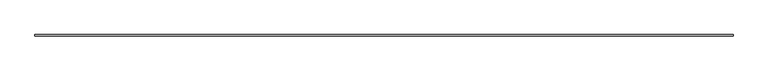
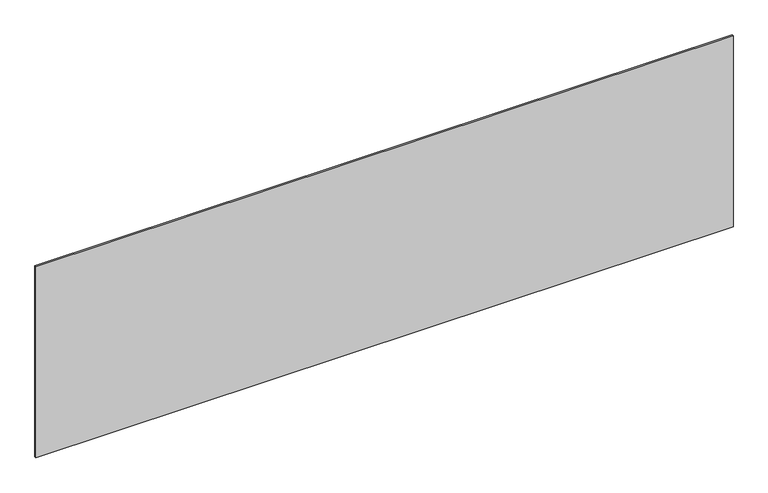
"""IFC4 building model written with IfcOpenShell, lengths in millimetres: plate geometry, システム パネル : 標準."""

from ifc_helpers import new_model, si_unit, origin, origin_with_axes, place, context, project, spatial, polyline, outline, extrude, source, transform, mapped, element, save


def plate_5fce4ca5(model_context):
    return source(origin(), model_context, "Body", "SweptSolid", [
        extrude(outline(polyline([(2281.6666667, -5.0), (-2281.6666667, -5.0), (-2281.6666667, 5.0), (2281.6666667, 5.0), (2281.6666667, -5.0)])), origin_with_axes(), (0.0, 0.0, 1.0), 1322.2777309),
    ])


if __name__ == "__main__":
    model = new_model("IFC4")
    model_context = context("Model", 3, world=origin())
    ifc_project = project(units=[si_unit("LENGTHUNIT", "METRE", prefix="MILLI")], contexts=[model_context])
    site = spatial("IfcSite", under=ifc_project)
    building = spatial("IfcBuilding", under=site)
    placement = place(None, origin())
    plate_shape = plate_5fce4ca5(model_context)
    element("IfcPlate", 1, ObjectType="システム パネル : 標準", at=placement, inside=building, context=model_context, shape_type="MappedRepresentation", body=[
        mapped(plate_shape, transform((0.0, 0.0, 0.0), x_axis=(1.0, 0.0, 0.0), y_axis=(0.0, 1.0, 0.0), z_axis=(0.0, 0.0, 1.0))),
    ])
    save(model, "model.ifc")
